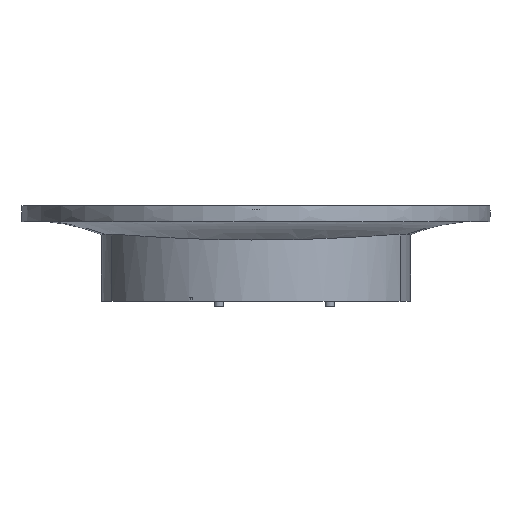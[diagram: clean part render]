
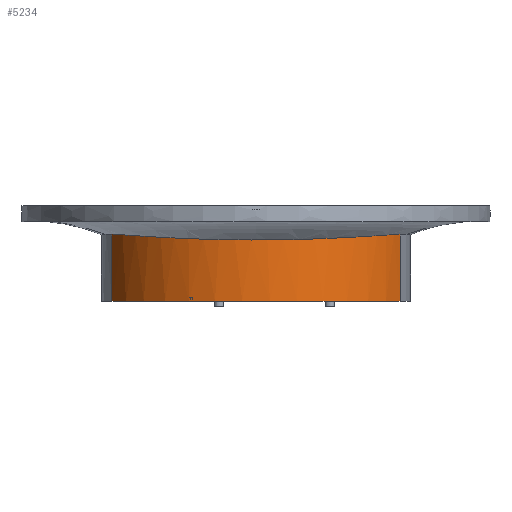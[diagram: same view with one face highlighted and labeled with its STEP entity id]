
A CAD part, left-side view. The second image highlights one B-rep face of the part: STEP entity #5234.
In plain terms, the highlighted cylindrical face has radius 63.5 mm (diameter 127 mm), a partial arc.
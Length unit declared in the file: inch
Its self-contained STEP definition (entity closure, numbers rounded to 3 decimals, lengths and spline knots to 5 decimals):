
#576=LINE('',#13618,#975);
#578=LINE('',#13638,#977);
#975=VECTOR('',#6186,0.3937);
#977=VECTOR('',#6190,0.3937);
#1003=CYLINDRICAL_SURFACE('',#5435,2.5);
#1018=CIRCLE('',#5385,2.5);
#1323=FACE_OUTER_BOUND('',#1647,.T.);
#1647=EDGE_LOOP('',(#4738,#4739,#4740,#4741));
#1973=B_SPLINE_CURVE_WITH_KNOTS('',3,(#13622,#13623,#13624,#13625,#13626,
#13627,#13628,#13629,#13630,#13631,#13632,#13633,#13634,#13635,#13636,#13637),
 .UNSPECIFIED.,.F.,.F.,(4,2,2,2,2,2,2,4),(-14.3635,-12.18916,
-10.18169,-7.9989,-6.57848,-4.68375,
-2.222,0.),.UNSPECIFIED.);
#2454=VERTEX_POINT('',#13338);
#2455=VERTEX_POINT('',#13346);
#2490=VERTEX_POINT('',#13612);
#2492=VERTEX_POINT('',#13621);
#3200=EDGE_CURVE('',#2454,#2455,#1018,.T.);
#3249=EDGE_CURVE('',#2454,#2490,#576,.T.);
#3251=EDGE_CURVE('',#2492,#2490,#1973,.T.);
#3252=EDGE_CURVE('',#2455,#2492,#578,.T.);
#4738=ORIENTED_EDGE('',*,*,#3251,.F.);
#4739=ORIENTED_EDGE('',*,*,#3252,.F.);
#4740=ORIENTED_EDGE('',*,*,#3200,.F.);
#4741=ORIENTED_EDGE('',*,*,#3249,.T.);
#5234=ADVANCED_FACE('',(#1323),#1003,.T.);
#5385=AXIS2_PLACEMENT_3D('',#13347,#6074,#6075);
#5435=AXIS2_PLACEMENT_3D('',#13620,#6188,#6189);
#6074=DIRECTION('center_axis',(0.,0.,-1.));
#6075=DIRECTION('ref_axis',(1.,0.,0.));
#6186=DIRECTION('',(0.,0.,1.));
#6188=DIRECTION('center_axis',(0.,0.,1.));
#6189=DIRECTION('ref_axis',(-1.,0.,0.));
#6190=DIRECTION('',(0.,0.,1.));
#13338=CARTESIAN_POINT('',(-1.07167,-2.25865,0.));
#13346=CARTESIAN_POINT('',(-1.07175,2.25862,0.));
#13347=CARTESIAN_POINT('Origin',(0.,0.,0.));
#13612=CARTESIAN_POINT('',(-1.07167,-2.25865,1.05512));
#13618=CARTESIAN_POINT('',(-1.07167,-2.25865,0.));
#13620=CARTESIAN_POINT('Origin',(0.,0.,0.));
#13621=CARTESIAN_POINT('',(-1.07175,2.25862,1.05512));
#13622=CARTESIAN_POINT('Ctrl Pts',(-1.07175,2.25862,1.05512));
#13623=CARTESIAN_POINT('Ctrl Pts',(-1.32943,2.13635,1.04556));
#13624=CARTESIAN_POINT('Ctrl Pts',(-1.56422,1.97091,1.0331));
#13625=CARTESIAN_POINT('Ctrl Pts',(-1.95229,1.58361,1.00817));
#13626=CARTESIAN_POINT('Ctrl Pts',(-2.10809,1.3694,0.99595));
#13627=CARTESIAN_POINT('Ctrl Pts',(-2.35754,0.87974,0.97469));
#13628=CARTESIAN_POINT('Ctrl Pts',(-2.44276,0.60416,
0.96629));
#13629=CARTESIAN_POINT('Ctrl Pts',(-2.5033,0.13512,
0.96048));
#13630=CARTESIAN_POINT('Ctrl Pts',(-2.5064,-0.05187,
0.96019));
#13631=CARTESIAN_POINT('Ctrl Pts',(-2.46508,-0.48502,
0.96414));
#13632=CARTESIAN_POINT('Ctrl Pts',(-2.40466,-0.72756,
0.97012));
#13633=CARTESIAN_POINT('Ctrl Pts',(-2.18593,-1.25536,0.98964));
#13634=CARTESIAN_POINT('Ctrl Pts',(-2.00575,-1.5268,1.00461));
#13635=CARTESIAN_POINT('Ctrl Pts',(-1.57435,-1.96374,
1.03255));
#13636=CARTESIAN_POINT('Ctrl Pts',(-1.33497,-2.13372,1.04536));
#13637=CARTESIAN_POINT('Ctrl Pts',(-1.07167,-2.25865,1.05512));
#13638=CARTESIAN_POINT('',(-1.07175,2.25862,0.));
